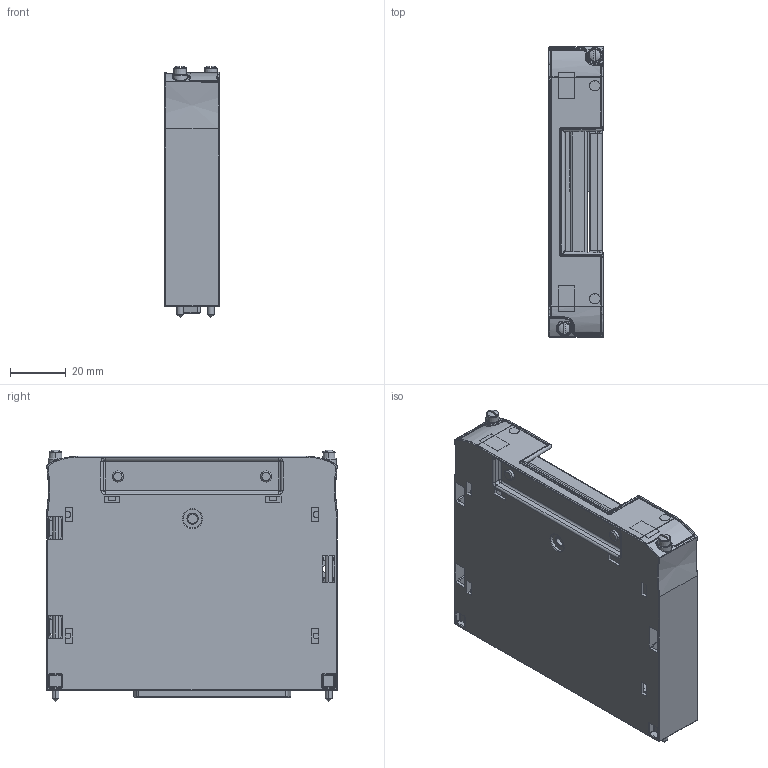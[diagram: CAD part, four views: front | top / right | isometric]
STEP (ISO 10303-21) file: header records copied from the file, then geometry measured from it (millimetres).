
FILE_DESCRIPTION((''),'2;1');
FILE_NAME('CU_TB-2676','2011-08-15T',('jjorden'),(''),'PRO/ENGINEER BY PARAMETRIC TECHNOLOGY CORPORATION, 2010230','PRO/ENGINEER BY PARAMETRIC TECHNOLOGY CORPORATION, 2010230','');
FILE_SCHEMA(('CONFIG_CONTROL_DESIGN'));
Products named in the file (1): CU_TB-2676
Bounding box: 19.53 x 104.54 x 90.6 mm (x, y, z)
Volume: 38769.4 mm3; surface area: 61793.3 mm2
Topology: 4 solids, 5 shells, 2426 faces, 6068 edges, 3696 vertices
Faces by surface type: plane 1311, cylinder 566, bspline 231, torus 130, sphere 112, cone 76
Entity records: 91156 total; most frequent: CARTESIAN_POINT 34583, ORIENTED_EDGE 12102, DIRECTION 11104, EDGE_CURVE 6051, VECTOR 4102, LINE 4102, VERTEX_POINT 3753, AXIS2_PLACEMENT_3D 3501
